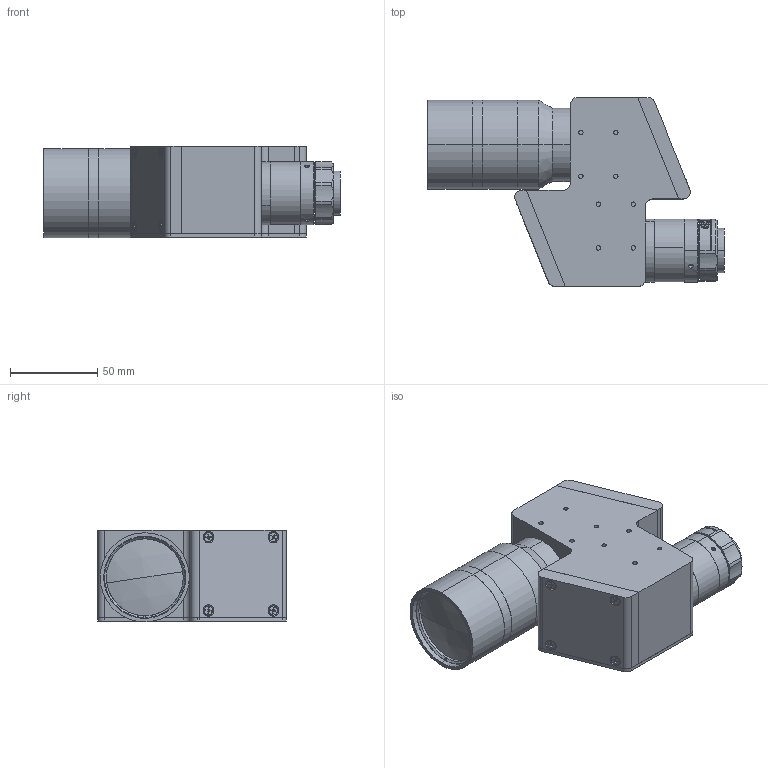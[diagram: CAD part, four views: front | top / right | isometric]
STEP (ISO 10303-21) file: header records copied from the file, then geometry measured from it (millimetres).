
FILE_DESCRIPTION (( 'STEP AP203' ), '1' );
FILE_NAME ('XF-MH05X580.STEP', '2020-08-24T07:18:40', ( 'canrill-02' ), ( '' ), 'SwSTEP 2.0', 'SolidWorks 2014', '' );
FILE_SCHEMA (( 'CONFIG_CONTROL_DESIGN' ));
Length unit declared in the file: millimetre
Products named in the file (1): XF-MH05X580
Bounding box: 169.58 x 108 x 52.5 mm (x, y, z)
Surface area: 59829.1 mm2 (no closed solid volume)
Topology: 0 solids, 32 shells, 413 faces, 1309 edges, 903 vertices
Faces by surface type: plane 207, cylinder 157, cone 45, sphere 2, torus 2
Entity records: 14800 total; most frequent: CARTESIAN_POINT 2957, DIRECTION 2573, ORIENTED_EDGE 2159, EDGE_CURVE 1307, VERTEX_POINT 903, AXIS2_PLACEMENT_3D 879, VECTOR 815, LINE 815
